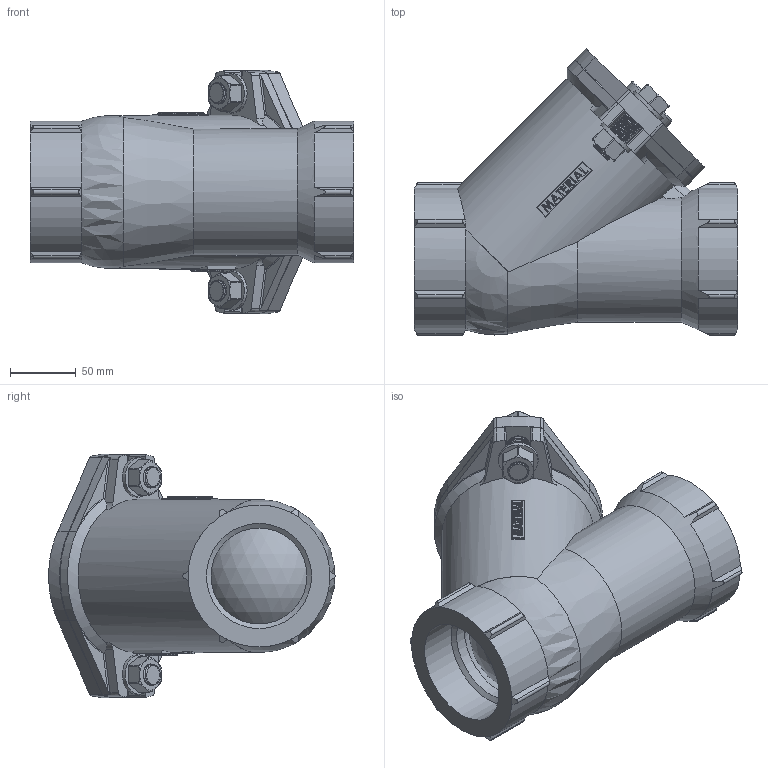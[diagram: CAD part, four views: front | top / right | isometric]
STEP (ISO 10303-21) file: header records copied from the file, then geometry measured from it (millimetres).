
FILE_DESCRIPTION(/* description */ ('Eriks item no: 11812992'),/* implementation_level */ '2;1');
FILE_NAME(/* name */ 'L:\DATA\ENG\Inventor\Econ 3D modellen\terugslagklep\2631\2631-DN80-PN16-NBR-SB.stp',/* time_stamp */ '2022-03-21T10:35:39+01:00',/* author */ ('roger.thijssen'),/* organization */ (''),/* preprocessor_version */ 'ST-DEVELOPER v18',/* originating_system */ 'Autodesk Inventor 2020',/* authorisation */ '');
FILE_SCHEMA (('AUTOMOTIVE_DESIGN { 1 0 10303 214 3 1 1 }'));
Length unit declared in the file: millimetre
Products named in the file (1): Ball check valve, 2631 - 3" BSPP - PN16 - NBR - SB
Bounding box: 246 x 217.94 x 185.15 mm (x, y, z)
Volume: 1767932.3 mm3; surface area: 321774.8 mm2
Topology: 8 solids, 8 shells, 717 faces, 1891 edges, 1207 vertices
Faces by surface type: cylinder 348, plane 281, bspline 36, torus 31, cone 17, sphere 4
Full cylindrical faces by diameter (mm): 13.835 x50, 16 x52, 16.2 x2, 17 x4, 30 x4, 34 x1, 40 x1, 43 x1, 73 x1, 80 x2, 99 x1, 100 x1, 100.5 x1
Entity records: 36376 total; most frequent: CARTESIAN_POINT 19260, ORIENTED_EDGE 3758, DIRECTION 3375, EDGE_CURVE 1879, AXIS2_PLACEMENT_3D 1226, VERTEX_POINT 1207, LINE 923, VECTOR 923
